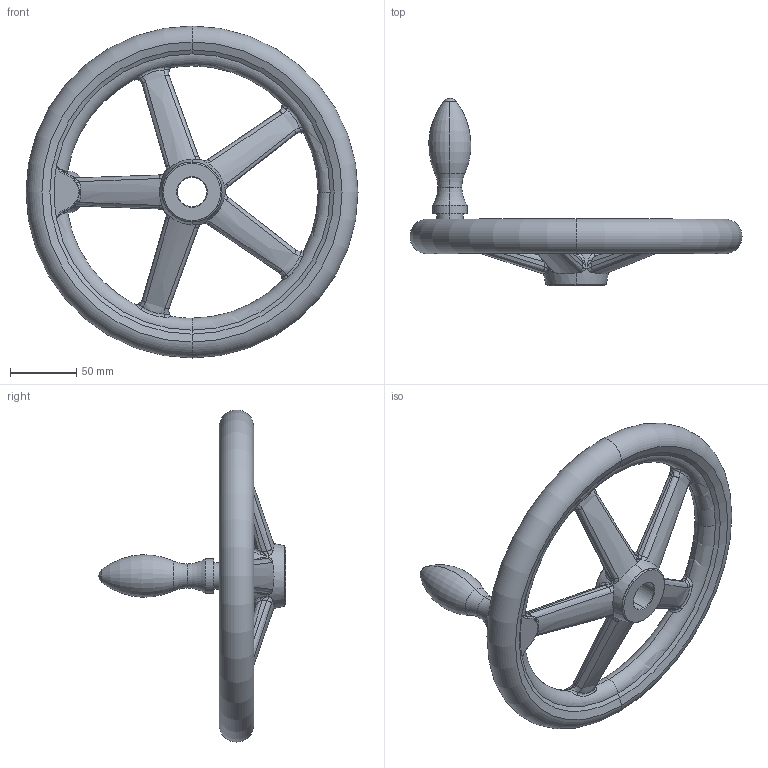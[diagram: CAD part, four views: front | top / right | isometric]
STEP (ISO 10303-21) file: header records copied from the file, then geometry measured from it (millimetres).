
FILE_DESCRIPTION (( 'STEP AP203' ), '1' );
FILE_NAME ('din950_d4_250x22.step', '2010-03-23T10:16:05', ( '_' ), ( '_' ), 'SwSTEP 2.0', 'SolidWorks 2010', '' );
FILE_SCHEMA (( 'CONFIG_CONTROL_DESIGN' ));
Length unit declared in the file: millimetre
Products named in the file (1): din950_d4_250x22
Bounding box: 250 x 141 x 250 mm (x, y, z)
Volume: 582075.1 mm3; surface area: 96759.5 mm2
Topology: 1 solids, 1 shells, 263 faces, 638 edges, 349 vertices
Faces by surface type: bspline 176, torus 25, sphere 18, plane 17, cone 16, cylinder 11
Entity records: 37317 total; most frequent: CARTESIAN_POINT 32278, ORIENTED_EDGE 1232, DIRECTION 712, EDGE_CURVE 616, VERTEX_POINT 349, AXIS2_PLACEMENT_3D 343, B_SPLINE_CURVE_WITH_KNOTS 335, EDGE_LOOP 269
